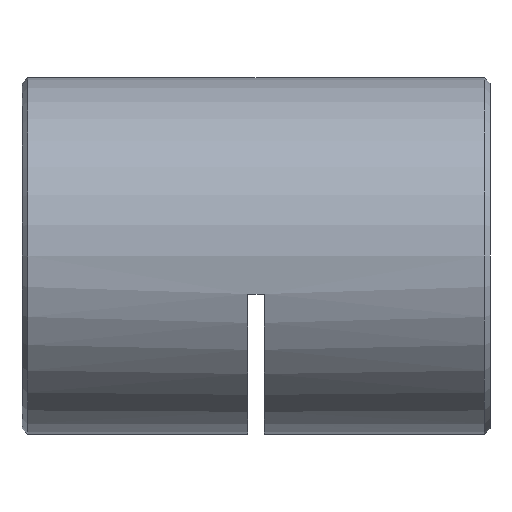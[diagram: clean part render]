
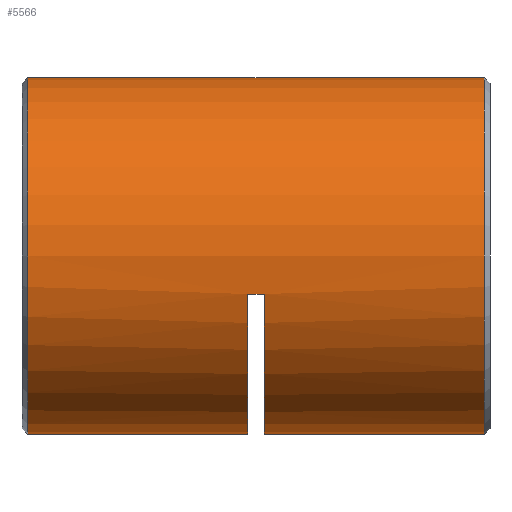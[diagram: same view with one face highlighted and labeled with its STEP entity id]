
A CAD part, left-side view. The second image highlights one B-rep face of the part: STEP entity #5566.
In plain terms, the highlighted cylindrical face has radius 16 mm (diameter 32 mm), a partial arc.
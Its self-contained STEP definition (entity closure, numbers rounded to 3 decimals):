
#2 = VECTOR ( 'NONE', #6054, 1000. ) ;
#71 = DIRECTION ( 'NONE',  ( 0., -1., 0. ) ) ;
#255 = ORIENTED_EDGE ( 'NONE', *, *, #4946, .T. ) ;
#452 = VECTOR ( 'NONE', #997, 1000. ) ;
#455 = DIRECTION ( 'NONE',  ( 0., -1., 0. ) ) ;
#460 = DIRECTION ( 'NONE',  ( 0., -1., 0. ) ) ;
#513 = CARTESIAN_POINT ( 'NONE',  ( 0., 42.5, 16. ) ) ;
#554 = ORIENTED_EDGE ( 'NONE', *, *, #926, .F. ) ;
#926 = EDGE_CURVE ( 'NONE', #2075, #975, #5561, .T. ) ;
#975 = VERTEX_POINT ( 'NONE', #2478 ) ;
#985 = CARTESIAN_POINT ( 'NONE',  ( 0., 42.5, 0. ) ) ;
#997 = DIRECTION ( 'NONE',  ( 0., -1., 0. ) ) ;
#1071 = VERTEX_POINT ( 'NONE', #2555 ) ;
#1199 = CYLINDRICAL_SURFACE ( 'NONE', #6135, 16. ) ;
#1345 = CIRCLE ( 'NONE', #2147, 16. ) ;
#1443 = CARTESIAN_POINT ( 'NONE',  ( 0., 22., 0. ) ) ;
#1507 = CIRCLE ( 'NONE', #3773, 16. ) ;
#1717 = LINE ( 'NONE', #5729, #452 ) ;
#1741 = EDGE_CURVE ( 'NONE', #6184, #1071, #1717, .T. ) ;
#1779 = ORIENTED_EDGE ( 'NONE', *, *, #4223, .F. ) ;
#1780 = EDGE_LOOP ( 'NONE', ( #554, #4978, #4579, #1779, #5089, #5208, #4535, #255 ) ) ;
#1972 = CARTESIAN_POINT ( 'NONE',  ( 0., 41.75, 0. ) ) ;
#2028 = LINE ( 'NONE', #3709, #6159 ) ;
#2075 = VERTEX_POINT ( 'NONE', #5390 ) ;
#2147 = AXIS2_PLACEMENT_3D ( 'NONE', #5512, #2622, #5979 ) ;
#2185 = AXIS2_PLACEMENT_3D ( 'NONE', #1443, #5120, #3475 ) ;
#2189 = CARTESIAN_POINT ( 'NONE',  ( 0., 22., -16. ) ) ;
#2238 = CARTESIAN_POINT ( 'NONE',  ( 0., 41.75, -16. ) ) ;
#2279 = DIRECTION ( 'NONE',  ( 0., -1., 0. ) ) ;
#2356 = VERTEX_POINT ( 'NONE', #4312 ) ;
#2385 = CARTESIAN_POINT ( 'NONE',  ( -15.632, 22., -3.413 ) ) ;
#2478 = CARTESIAN_POINT ( 'NONE',  ( 0., 0.75, 16. ) ) ;
#2555 = CARTESIAN_POINT ( 'NONE',  ( -15.632, 20.5, -3.413 ) ) ;
#2622 = DIRECTION ( 'NONE',  ( 0., -1., 0. ) ) ;
#3122 = VERTEX_POINT ( 'NONE', #2189 ) ;
#3198 = AXIS2_PLACEMENT_3D ( 'NONE', #1972, #71, #5299 ) ;
#3228 = DIRECTION ( 'NONE',  ( 0., 0., 1. ) ) ;
#3286 = EDGE_CURVE ( 'NONE', #4372, #3122, #2028, .T. ) ;
#3475 = DIRECTION ( 'NONE',  ( 0., 0., -1. ) ) ;
#3588 = CARTESIAN_POINT ( 'NONE',  ( 0., 20.5, -16. ) ) ;
#3709 = CARTESIAN_POINT ( 'NONE',  ( 0., 42.5, -16. ) ) ;
#3773 = AXIS2_PLACEMENT_3D ( 'NONE', #5620, #6070, #3228 ) ;
#3831 = EDGE_CURVE ( 'NONE', #2075, #4372, #6002, .T. ) ;
#3837 = LINE ( 'NONE', #5564, #2 ) ;
#4019 = VERTEX_POINT ( 'NONE', #3588 ) ;
#4223 = EDGE_CURVE ( 'NONE', #6184, #3122, #5103, .T. ) ;
#4289 = EDGE_CURVE ( 'NONE', #4019, #2356, #3837, .T. ) ;
#4312 = CARTESIAN_POINT ( 'NONE',  ( 0., 0.75, -16. ) ) ;
#4372 = VERTEX_POINT ( 'NONE', #2238 ) ;
#4535 = ORIENTED_EDGE ( 'NONE', *, *, #4289, .T. ) ;
#4546 = FACE_OUTER_BOUND ( 'NONE', #1780, .T. ) ;
#4579 = ORIENTED_EDGE ( 'NONE', *, *, #3286, .T. ) ;
#4946 = EDGE_CURVE ( 'NONE', #2356, #975, #1507, .T. ) ;
#4978 = ORIENTED_EDGE ( 'NONE', *, *, #3831, .T. ) ;
#5089 = ORIENTED_EDGE ( 'NONE', *, *, #1741, .T. ) ;
#5100 = VECTOR ( 'NONE', #455, 1000. ) ;
#5103 = CIRCLE ( 'NONE', #2185, 16. ) ;
#5120 = DIRECTION ( 'NONE',  ( 0., -1., 0. ) ) ;
#5208 = ORIENTED_EDGE ( 'NONE', *, *, #5269, .T. ) ;
#5269 = EDGE_CURVE ( 'NONE', #1071, #4019, #1345, .T. ) ;
#5294 = DIRECTION ( 'NONE',  ( 0., 0., -1. ) ) ;
#5299 = DIRECTION ( 'NONE',  ( 0., 0., -1. ) ) ;
#5390 = CARTESIAN_POINT ( 'NONE',  ( 0., 41.75, 16. ) ) ;
#5512 = CARTESIAN_POINT ( 'NONE',  ( 0., 20.5, 0. ) ) ;
#5561 = LINE ( 'NONE', #513, #5100 ) ;
#5564 = CARTESIAN_POINT ( 'NONE',  ( 0., 42.5, -16. ) ) ;
#5566 = ADVANCED_FACE ( 'NONE', ( #4546 ), #1199, .T. ) ;
#5620 = CARTESIAN_POINT ( 'NONE',  ( 0., 0.75, 0. ) ) ;
#5729 = CARTESIAN_POINT ( 'NONE',  ( -15.632, 21.25, -3.413 ) ) ;
#5979 = DIRECTION ( 'NONE',  ( 0., 0., -1. ) ) ;
#6002 = CIRCLE ( 'NONE', #3198, 16. ) ;
#6054 = DIRECTION ( 'NONE',  ( 0., -1., 0. ) ) ;
#6070 = DIRECTION ( 'NONE',  ( 0., 1., 0. ) ) ;
#6135 = AXIS2_PLACEMENT_3D ( 'NONE', #985, #460, #5294 ) ;
#6159 = VECTOR ( 'NONE', #2279, 1000. ) ;
#6184 = VERTEX_POINT ( 'NONE', #2385 ) ;
